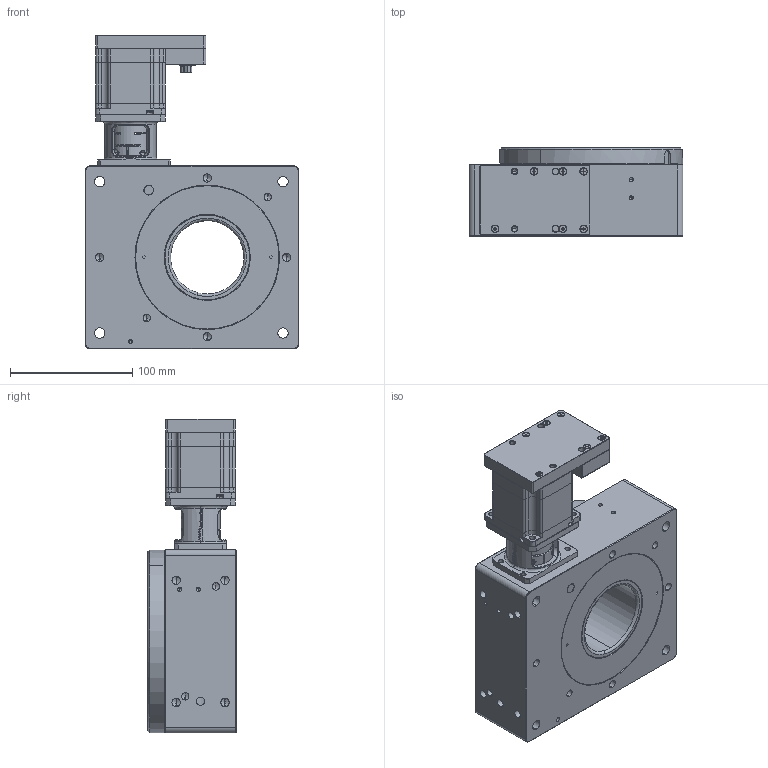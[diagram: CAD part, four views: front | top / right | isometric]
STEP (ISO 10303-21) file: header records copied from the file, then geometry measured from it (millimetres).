
FILE_DESCRIPTION (( 'STEP AP203' ), '1' );
FILE_NAME ('MDT360150-SG-I48-AK-S.STEP', '2019-09-05T08:37:13', ( '' ), ( '' ), 'SwSTEP 2.0', 'SolidWorks 2019', '' );
FILE_SCHEMA (( 'CONFIG_CONTROL_DESIGN' ));
Length unit declared in the file: millimetre
Products named in the file (4): coli23K_mini_PAC14J2; MDT360150-SG-I48-AK-S; MDT360150-000-01-Gehäuse-komplett; MDT360150-000-02-Drehscheibe-komplett
Assembly tree (3 placements, depth 2):
  MDT360150-SG-I48-AK-S
    MDT360150-000-01-Gehäuse-komplett
    MDT360150-000-02-Drehscheibe-komplett
    coli23K_mini_PAC14J2
Bounding box: 175 x 73 x 257 mm (x, y, z)
Volume: 1439615.8 mm3; surface area: 352938.8 mm2
Topology: 69 solids, 81 shells, 2475 faces, 6382 edges, 4039 vertices
Faces by surface type: cylinder 771, plane 748, bspline 586, cone 342, torus 28
Entity records: 114188 total; most frequent: CARTESIAN_POINT 57619, ORIENTED_EDGE 12394, DIRECTION 10722, EDGE_CURVE 6197, AXIS2_PLACEMENT_3D 4120, VERTEX_POINT 4039, EDGE_LOOP 2722, VECTOR 2482
